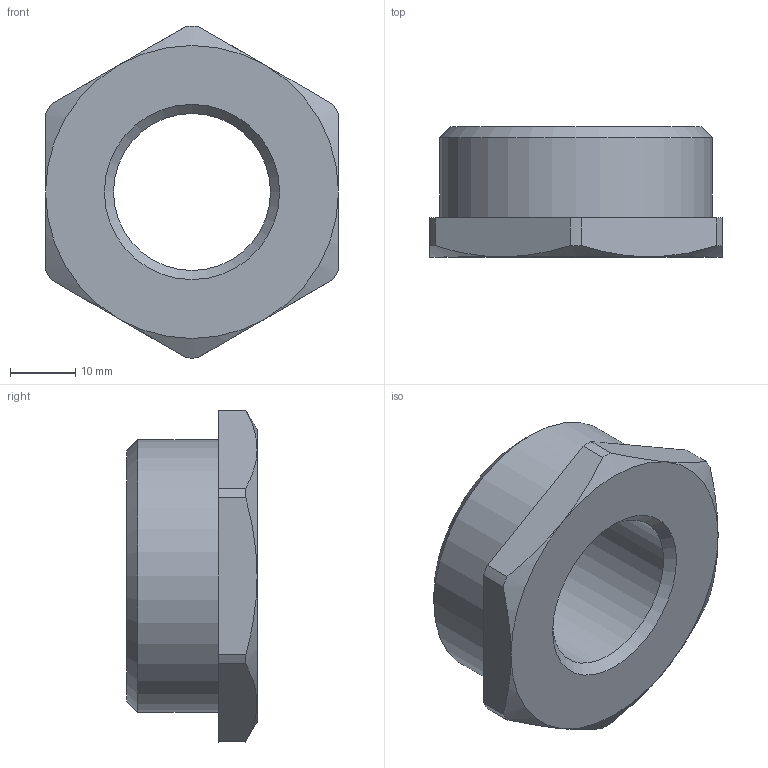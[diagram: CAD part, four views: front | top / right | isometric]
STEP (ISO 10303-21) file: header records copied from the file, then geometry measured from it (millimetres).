
FILE_DESCRIPTION(('STEP AP203'), '1');
FILE_NAME('ÂÐ.753128.033 - VTr.581.N.0705 Ôèò. ðåçüá', '2024-07-04T11:12:29', ('Boss'), (''), 'C3D Converter', 'C3D Toolkit', '');
FILE_SCHEMA(('CONFIG_CONTROL_DESIGN'));
Length unit declared in the file: millimetre
Products named in the file (1): ВР.753128.033
Bounding box: 45 x 20 x 51 mm (x, y, z)
Volume: 20250 mm3; surface area: 6541 mm2
Topology: 1 solids, 1 shells, 23 faces, 54 edges, 34 vertices
Faces by surface type: plane 9, cylinder 8, cone 6
Full cylindrical faces by diameter (mm): 24.118 x1, 41.91 x1
Entity records: 968 total; most frequent: CARTESIAN_POINT 421, DIRECTION 110, ORIENTED_EDGE 98, EDGE_CURVE 49, AXIS2_PLACEMENT_3D 46, VERTEX_POINT 34, EDGE_LOOP 31, ADVANCED_FACE 23
